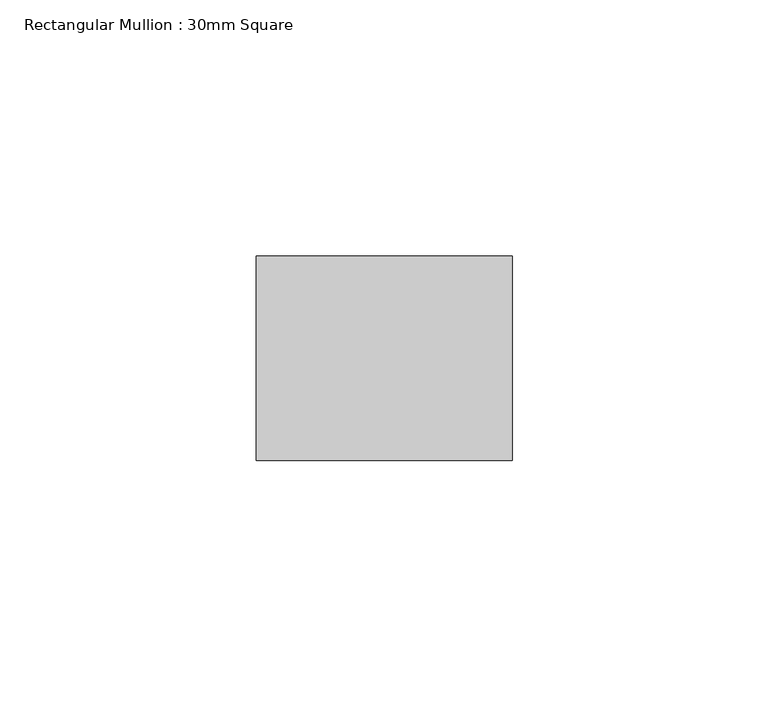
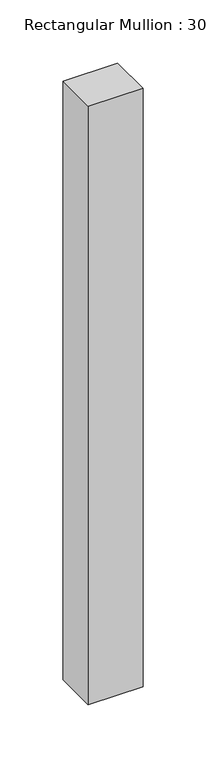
"""IFC4 building model written with IfcOpenShell, lengths in millimetres: member geometry, Rectangular Mullion : 30mm Square."""

from ifc_helpers import new_model, si_unit, frame, origin, place, context, project, spatial, polyline, outline, extrude, source, transform, mapped, element, save


def rectangular_mullion_30mm_square_465452b0(model_context):
    return source(origin(), model_context, "Body", "SweptSolid", [
        extrude(outline(polyline([(25.0, 20.0), (25.0, -20.0), (-25.0, -20.0), (-25.0, 20.0), (25.0, 20.0)])), frame((0.0, 0.0, -578.2555545), z_axis=(0.0, 0.0, 1.0), x_axis=(1.0, 0.0, 0.0)), (0.0, 0.0, 1.0), 578.2555545),
    ])


if __name__ == "__main__":
    model = new_model("IFC4")
    model_context = context("Model", 3, world=origin())
    ifc_project = project(units=[si_unit("LENGTHUNIT", "METRE", prefix="MILLI")], contexts=[model_context])
    site = spatial("IfcSite", under=ifc_project)
    building = spatial("IfcBuilding", under=site)
    placement = place(None, origin())
    rectangular_mullion_30mm_square_shape = rectangular_mullion_30mm_square_465452b0(model_context)
    element("IfcMember", 1, ObjectType="Rectangular Mullion : 30mm Square", at=placement, inside=building, context=model_context, shape_type="MappedRepresentation", body=[
        mapped(rectangular_mullion_30mm_square_shape, transform((0.0, 0.0, 0.0), x_axis=(1.0, 0.0, 0.0), y_axis=(0.0, 1.0, 0.0), z_axis=(0.0, 0.0, 1.0))),
    ])
    save(model, "model.ifc")
